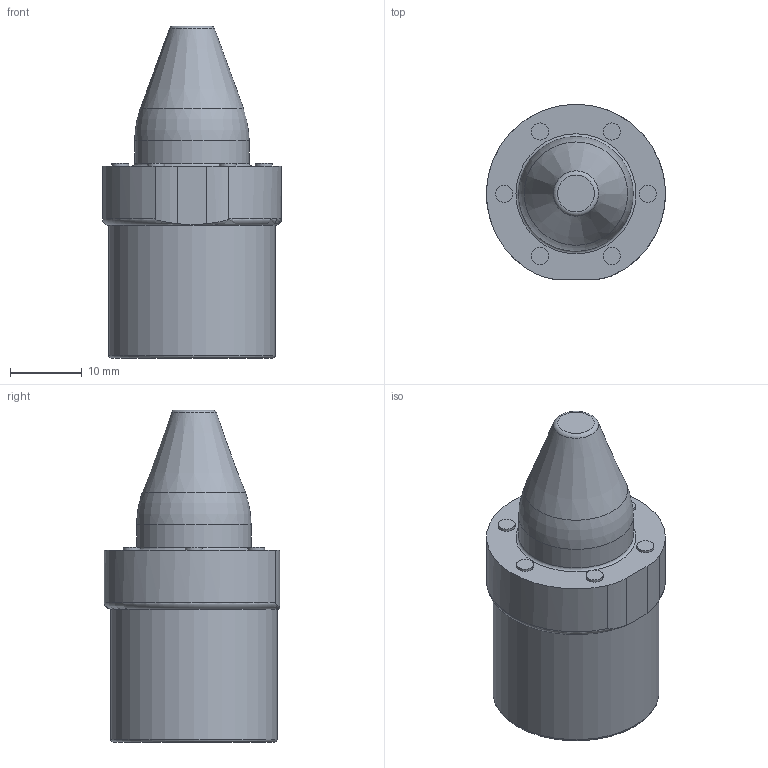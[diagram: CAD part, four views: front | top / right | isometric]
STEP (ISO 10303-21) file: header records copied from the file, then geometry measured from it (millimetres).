
FILE_DESCRIPTION (( 'STEP AP214' ), '1' );
FILE_NAME ('PA-16mm-3.2mm-S-P-BT.STEP', '2023-12-06T12:00:54', ( '' ), ( '' ), 'SwSTEP 2.0', 'SolidWorks 2020', '' );
FILE_SCHEMA (( 'AUTOMOTIVE_DESIGN' ));
Length unit declared in the file: inch
Products named in the file (1): PA-16mm-3.2mm-S-P-BT
Bounding box: 24.99 x 24.49 x 46.35 mm (x, y, z)
Volume: 13531.2 mm3; surface area: 4026.3 mm2
Topology: 1 solids, 1 shells, 31 faces, 59 edges, 37 vertices
Faces by surface type: cylinder 13, plane 10, torus 5, cone 3
Full cylindrical faces by diameter (mm): 2.388 x6, 6.7 x1, 8 x1, 16 x1, 23.241 x1
Entity records: 865 total; most frequent: CARTESIAN_POINT 143, DIRECTION 127, ORIENTED_EDGE 74, AXIS2_PLACEMENT_3D 61, EDGE_LOOP 56, FACE_OUTER_BOUND 46, EDGE_CURVE 37, VERTEX_POINT 33
